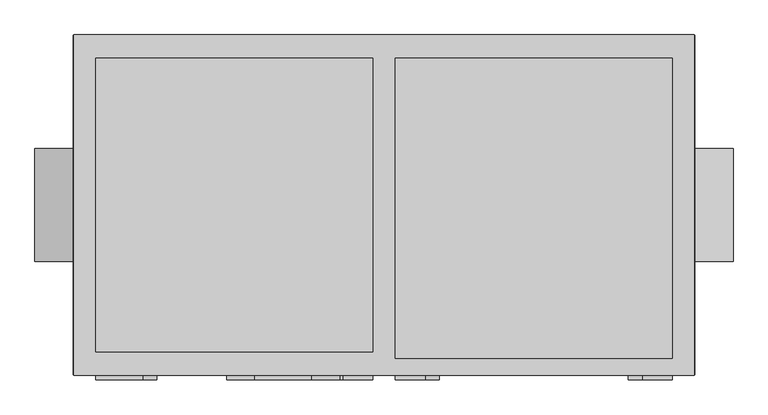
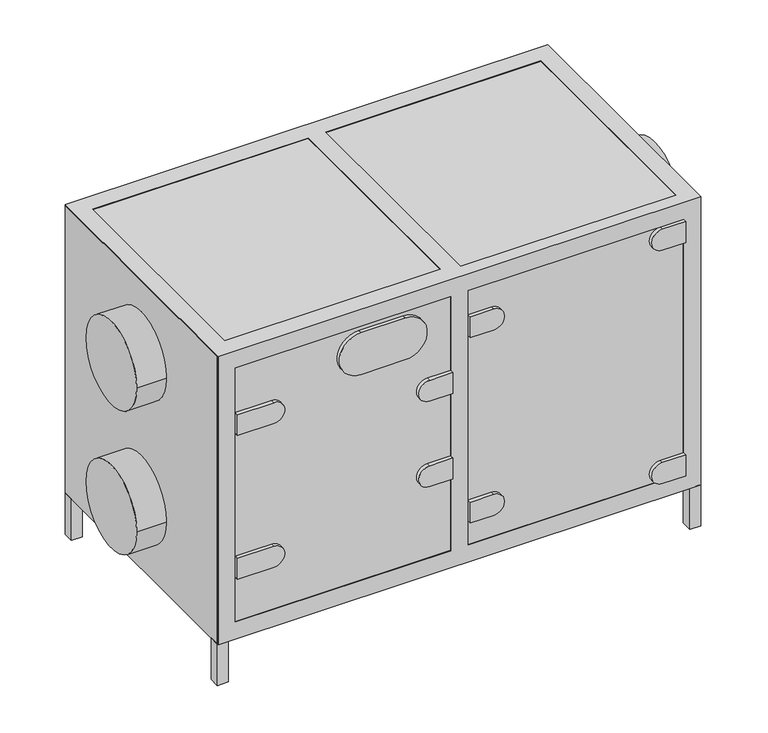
"""IFC4 building model written with IfcOpenShell, lengths in millimetres: proxy geometry, AVS 400...1600-S-RC(RG)-R : AVS 700-S-RG-R."""

import ifcopenshell
import ifcopenshell.guid

model = None  # the IFC model being written
_history = None  # IfcOwnerHistory: only IFC2X3 demands one
_inside = {}  # id of a spatial element -> (the spatial element, [elements in it])
_under = {}  # id of a project, library or spatial element -> (it, [spatial elements below it])
_declared = {}  # id of a project -> (the project, [libraries it declares])
_typed = {}  # id of a type object -> (the type object, [elements of that type])
_made_of = {}  # id of a material, layer set ... -> (it, [elements and type objects made of it])


def new_model(schema):
    """Start an empty IFC model of exactly this schema.

    Asked for "IFC4X3", IfcOpenShell would pick the latest addendum, in which some entities
    have other attributes; the version numbers below select the first issue.
    IFC2X3 requires an IfcOwnerHistory on every rooted entity: one is made here for all.
    """
    global model, _history
    if schema == "IFC4X3":
        model = ifcopenshell.file(schema_version=(4, 3, 0, 0))
    else:
        model = ifcopenshell.file(schema=schema)
    _inside.clear()
    _under.clear()
    _declared.clear()
    _typed.clear()
    _made_of.clear()
    _history = None
    if model.schema == "IFC2X3":
        org = make("IfcOrganization", Name="unknown")
        user = make(
            "IfcPersonAndOrganization",
            ThePerson=make("IfcPerson", FamilyName="unknown"),
            TheOrganization=org,
        )
        app = make(
            "IfcApplication",
            ApplicationDeveloper=org,
            Version="unknown",
            ApplicationFullName="unknown",
            ApplicationIdentifier="unknown",
        )
        _history = make(
            "IfcOwnerHistory",
            OwningUser=user,
            OwningApplication=app,
            ChangeAction="ADDED",
            CreationDate=0,
        )
    return model


def make(cls, **values):
    """One entity of the class cls with the attributes given. An attribute that is None is left unset."""
    return model.create_entity(
        cls, **{name: value for name, value in values.items() if value is not None}
    )


def rooted(cls, **values):
    """An entity with a GlobalId (a new one), such as an element, a storey or a relation."""
    return make(cls, GlobalId=ifcopenshell.guid.new(), OwnerHistory=_history, **values)


def si_unit(unit_type, name, prefix=None):
    """IfcSIUnit, for example si_unit("LENGTHUNIT", "METRE", prefix="MILLI")."""
    return make("IfcSIUnit", UnitType=unit_type, Prefix=prefix, Name=name)


def assignment(units):
    """IfcUnitAssignment: the units of a project."""
    return None if units is None else make("IfcUnitAssignment", Units=units)


def point(xyz):
    """IfcCartesianPoint."""
    return None if xyz is None else make("IfcCartesianPoint", Coordinates=xyz)


def direction(xyz):
    """IfcDirection."""
    return None if xyz is None else make("IfcDirection", DirectionRatios=xyz)


def frame(location, z_axis=None, x_axis=None):
    """IfcAxis2Placement3D, a coordinate frame: its origin and axes. An axis left out is left unset."""
    return make(
        "IfcAxis2Placement3D",
        Location=point(location),
        Axis=direction(z_axis),
        RefDirection=direction(x_axis),
    )


def frame_2d(location, x_axis=None):
    """IfcAxis2Placement2D, a coordinate frame in the plane: its origin and x axis."""
    return make(
        "IfcAxis2Placement2D", Location=point(location), RefDirection=direction(x_axis)
    )


def origin():
    """The frame at (0, 0, 0) with its axes left unset."""
    return frame((0.0, 0.0, 0.0))


def origin_with_axes():
    """The frame at (0, 0, 0) with the z axis (0, 0, 1) and the x axis (1, 0, 0) written out."""
    return frame((0.0, 0.0, 0.0), z_axis=(0.0, 0.0, 1.0), x_axis=(1.0, 0.0, 0.0))


def place(relative_to, where):
    """IfcLocalPlacement: puts the frame where relative to a parent placement (None: the world)."""
    return make(
        "IfcLocalPlacement", PlacementRelTo=relative_to, RelativePlacement=where
    )


def context(
    kind, dimensions, precision=None, world=None, true_north=None, identifier=None
):
    """IfcGeometricRepresentationContext, for example the 3D "Model" context."""
    return make(
        "IfcGeometricRepresentationContext",
        ContextIdentifier=identifier,
        ContextType=kind,
        CoordinateSpaceDimension=dimensions,
        Precision=precision,
        WorldCoordinateSystem=world,
        TrueNorth=true_north,
    )


def project(units=None, contexts=None):
    """IfcProject with its units and contexts."""
    return rooted(
        "IfcProject",
        Name="project",
        RepresentationContexts=contexts,
        UnitsInContext=assignment(units),
    )


def spatial(cls, under=None, at=None, **own):
    """A site, building, storey or space (cls), placed at a placement, below another one or the project."""
    s = rooted(cls, ObjectPlacement=at, **own)
    if under is not None:
        _under.setdefault(under.id(), (under, []))[1].append(s)
    return s


def polyline(points):
    """IfcPolyline through the points."""
    return make("IfcPolyline", Points=[point(p) for p in points])


def circle_curve(where, radius):
    """IfcCircle in the frame where."""
    return make("IfcCircle", Position=where, Radius=radius)


def trimmed(basis, trim1, trim2, sense, master):
    """IfcTrimmedCurve: the piece of a basis curve between two trims."""
    return make(
        "IfcTrimmedCurve",
        BasisCurve=basis,
        Trim1=trim1,
        Trim2=trim2,
        SenseAgreement=sense,
        MasterRepresentation=master,
    )


def segment(curve, same_sense, transition):
    """IfcCompositeCurveSegment."""
    return make(
        "IfcCompositeCurveSegment",
        Transition=transition,
        SameSense=same_sense,
        ParentCurve=curve,
    )


def composite_curve(segments, self_intersect=None):
    """IfcCompositeCurve: segments joined end to end."""
    return make("IfcCompositeCurve", Segments=segments, SelfIntersect=self_intersect)


def outline(outer, holes=None, kind="AREA"):
    """IfcArbitraryClosedProfileDef: a profile drawn as a closed curve; with holes, ...WithVoids."""
    if holes is None:
        return make("IfcArbitraryClosedProfileDef", ProfileType=kind, OuterCurve=outer)
    return make(
        "IfcArbitraryProfileDefWithVoids",
        ProfileType=kind,
        OuterCurve=outer,
        InnerCurves=holes,
    )


def extrude(swept, where, along, depth):
    """IfcExtrudedAreaSolid: the profile swept, set in the frame where, extruded along a direction by depth."""
    return make(
        "IfcExtrudedAreaSolid",
        SweptArea=swept,
        Position=where,
        ExtrudedDirection=direction(along),
        Depth=depth,
    )


def faces_of(points, faces, orient=None, outer=None):
    """IfcFace entities. A face is a list of loops; a loop is a list of indices into points, from 0.

    orient and outer hold one flag for each loop. By default every Orientation is true, the
    first loop of a face is its IfcFaceOuterBound and the others are IfcFaceBound.
    """
    made = []
    for i, loops in enumerate(faces):
        bounds = []
        for j, loop in enumerate(loops):
            is_outer = j == 0 if outer is None else outer[i][j]
            bounds.append(
                make(
                    "IfcFaceOuterBound" if is_outer else "IfcFaceBound",
                    Bound=make("IfcPolyLoop", Polygon=[points[k] for k in loop]),
                    Orientation=True if orient is None else orient[i][j],
                )
            )
        made.append(make("IfcFace", Bounds=bounds))
    return made


def faceted_brep(points, faces, orient=None, outer=None, voids=None):
    """IfcFacetedBrep: a solid bounded by flat faces; with voids (closed shells), ...WithVoids."""
    shared = [point(p) for p in points]
    hull = make("IfcClosedShell", CfsFaces=faces_of(shared, faces, orient, outer))
    if voids is None:
        return make("IfcFacetedBrep", Outer=hull)
    return make(
        "IfcFacetedBrepWithVoids",
        Outer=hull,
        Voids=[
            make(cls, CfsFaces=faces_of(shared, fs, o, b)) for cls, fs, o, b in voids
        ],
    )


def shape(context_of_items, identifier, shape_type, items):
    """IfcShapeRepresentation: the items that make up one representation, for example the "Body"."""
    return make(
        "IfcShapeRepresentation",
        ContextOfItems=context_of_items,
        RepresentationIdentifier=identifier,
        RepresentationType=shape_type,
        Items=items,
    )


def source(mapping_origin, context_of_items, identifier, shape_type, items):
    """IfcRepresentationMap: a shape defined once, which mapped items show again and again."""
    return make(
        "IfcRepresentationMap",
        MappingOrigin=mapping_origin,
        MappedRepresentation=shape(context_of_items, identifier, shape_type, items),
    )


def transform(
    local_origin,
    x_axis=None,
    y_axis=None,
    z_axis=None,
    scale=None,
    scale2=None,
    scale3=None,
    uniform=True,
):
    """IfcCartesianTransformationOperator3D, or its non-uniform kind. x_axis, y_axis, z_axis: its Axis1, 2, 3."""
    if uniform:
        return make(
            "IfcCartesianTransformationOperator3D",
            Axis1=direction(x_axis),
            Axis2=direction(y_axis),
            LocalOrigin=point(local_origin),
            Scale=scale,
            Axis3=direction(z_axis),
        )
    return make(
        "IfcCartesianTransformationOperator3DnonUniform",
        Axis1=direction(x_axis),
        Axis2=direction(y_axis),
        LocalOrigin=point(local_origin),
        Scale=scale,
        Axis3=direction(z_axis),
        Scale2=scale2,
        Scale3=scale3,
    )


def mapped(mapping_source, mapping_target):
    """IfcMappedItem: shows the shape of a source again, moved by a transform."""
    return make(
        "IfcMappedItem", MappingSource=mapping_source, MappingTarget=mapping_target
    )


def made_of(thing, what):
    """Note that an element or type object is made of a material, layer set ...; save() writes the relation."""
    if what is not None:
        _made_of.setdefault(what.id(), (what, []))[1].append(thing)
    return thing


def element(
    cls,
    number,
    at=None,
    inside=None,
    cuts=None,
    type_object=None,
    material=None,
    context=None,
    identifier="Body",
    shape_type=None,
    held_by="IfcProductDefinitionShape",
    body=None,
    shapes=None,
    **own,
):
    """One element of the class cls, such as IfcWall. Its Tag is "e" and its number.

    at: its placement. inside: the storey or other place that contains it. cuts: it is an
    opening in that element (IfcRelVoidsElement). A single representation is given by context,
    identifier, shape_type and body (its items); several are given by shapes. held_by: the class
    of the entity that holds the representations. save() writes the other relations.
    """
    e = rooted(cls, Tag="e%d" % number, ObjectPlacement=at, **own)
    if body is not None:
        shapes = [shape(context, identifier, shape_type, body)]
    if shapes is not None:
        e.Representation = make(held_by, Representations=shapes)
    if inside is not None:
        _inside.setdefault(inside.id(), (inside, []))[1].append(e)
    if cuts is not None:
        rooted(
            "IfcRelVoidsElement", RelatingBuildingElement=cuts, RelatedOpeningElement=e
        )
    if type_object is not None:
        _typed.setdefault(type_object.id(), (type_object, []))[1].append(e)
    return made_of(e, material)


def aggregate(whole, parts):
    """IfcRelAggregates: a whole, such as a stair, and the parts it consists of."""
    return rooted("IfcRelAggregates", RelatingObject=whole, RelatedObjects=parts)


def save(model, path):
    """Write the relations noted so far, then the file.

    IfcRelAggregates (storeys below a building ...), IfcRelContainedInSpatialStructure (elements
    in a storey), IfcRelDefinesByType, IfcRelAssociatesMaterial and IfcRelDeclares: one each for
    every whole, place, type object, material and project.
    """
    for whole, parts in _under.values():
        aggregate(whole, parts)
    for where, things in _inside.values():
        rooted(
            "IfcRelContainedInSpatialStructure",
            RelatedElements=things,
            RelatingStructure=where,
        )
    for kind, things in _typed.values():
        rooted("IfcRelDefinesByType", RelatedObjects=things, RelatingType=kind)
    for what, things in _made_of.values():
        rooted("IfcRelAssociatesMaterial", RelatedObjects=things, RelatingMaterial=what)
    for by, libraries in _declared.values():
        rooted("IfcRelDeclares", RelatingContext=by, RelatedDefinitions=libraries)
    model.write(path)


def mechanical_equipment_7bd0ba8a(model_context):
    return source(origin(), model_context, "Body", "SolidModel", [
        extrude(outline(polyline([(525.0, 300.5), (550.0, 300.5), (550.0, 275.5), (525.0, 275.5), (525.0, 300.5)])), origin_with_axes(), (0.0, 0.0, 1.0), 100.0),
        extrude(outline(polyline([(525.0, -300.5), (525.0, -275.5), (550.0, -275.5), (550.0, -300.5), (525.0, -300.5)])), origin_with_axes(), (0.0, 0.0, 1.0), 100.0),
        extrude(outline(polyline([(-550.0, 275.5), (-550.0, 300.5), (-525.0, 300.5), (-525.0, 275.5), (-550.0, 275.5)])), origin_with_axes(), (0.0, 0.0, 1.0), 100.0),
        extrude(outline(polyline([(-550.0, -275.5), (-525.0, -275.5), (-525.0, -300.5), (-550.0, -300.5), (-550.0, -275.5)])), origin_with_axes(), (0.0, 0.0, 1.0), 100.0),
        faceted_brep([(549.0, 301.5, 793.0), (-549.0, 301.5, 793.0), (-549.0, -301.5, 793.0), (549.0, -301.5, 793.0), (-510.0, 260.5, 793.0), (-20.0, 260.5, 793.0), (-20.0, -260.5, 793.0), (-510.0, -260.5, 793.0), (510.0, 260.5, 793.0), (510.0, -271.5, 793.0), (20.0, -271.5, 793.0), (20.0, 260.5, 793.0), (549.0, 301.5, 99.0), (549.0, -301.5, 99.0), (-549.0, -301.5, 99.0), (-549.0, 301.5, 99.0), (-20.0, 260.5, 99.0), (-510.0, 260.5, 99.0), (-510.0, -260.5, 99.0), (-20.0, -260.5, 99.0), (510.0, -271.5, 99.0), (510.0, 260.5, 99.0), (20.0, 260.5, 99.0), (20.0, -271.5, 99.0), (-20.0, 301.5, 752.0), (-510.0, 301.5, 752.0), (-510.0, 301.5, 140.0), (-20.0, 301.5, 140.0), (510.0, 301.5, 140.0), (510.0, 301.5, 752.0), (20.0, 301.5, 752.0), (20.0, 301.5, 140.0), (-549.0, -260.5, 752.0), (-549.0, -260.5, 140.0), (-549.0, 260.5, 140.0), (-549.0, 260.5, 752.0), (-510.0, -301.5, 752.0), (-20.0, -301.5, 752.0), (-20.0, -301.5, 140.0), (-510.0, -301.5, 140.0), (510.0, -301.5, 752.0), (510.0, -301.5, 140.0), (20.0, -301.5, 140.0), (20.0, -301.5, 752.0), (549.0, -260.5, 140.0), (549.0, -260.5, 752.0), (549.0, 260.5, 752.0), (549.0, 260.5, 140.0), (-510.0, 260.5, 752.0), (-20.0, 260.5, 752.0), (-20.0, 260.5, 140.0), (-510.0, 260.5, 140.0), (-20.0, -260.5, 752.0), (-510.0, -260.5, 752.0), (-510.0, -260.5, 140.0), (-20.0, -260.5, 140.0), (510.0, 260.5, 752.0), (510.0, -260.5, 752.0), (510.0, -260.5, 140.0), (510.0, 260.5, 140.0), (510.0, -271.5, 140.0), (510.0, -271.5, 752.0), (20.0, 260.5, 752.0), (20.0, -260.5, 752.0), (20.0, -260.5, 140.0), (20.0, 260.5, 140.0), (20.0, -271.5, 752.0), (20.0, -271.5, 140.0)], [[[0, 1, 2, 3], [4, 5, 6, 7], [8, 9, 10, 11]], [[12, 13, 14, 15], [16, 17, 18, 19], [20, 21, 22, 23]], [[1, 0, 12, 15], [24, 25, 26, 27], [28, 29, 30, 31]], [[2, 1, 15, 14], [32, 33, 34, 35]], [[3, 2, 14, 13], [36, 37, 38, 39], [40, 41, 42, 43]], [[0, 3, 13, 12], [44, 45, 46, 47]], [[5, 4, 48, 49]], [[17, 16, 50, 51]], [[7, 6, 52, 53]], [[19, 18, 54, 55]], [[9, 8, 56, 57, 58, 59, 21, 20, 60, 41, 40, 61]], [[56, 29, 28, 59]], [[35, 48, 53, 32]], [[56, 46, 45, 57]], [[49, 62, 63, 52]], [[51, 34, 33, 54]], [[47, 59, 58, 44]], [[55, 64, 65, 50]], [[36, 53, 52, 37]], [[24, 49, 48, 25]], [[54, 39, 38, 55]], [[50, 27, 26, 51]], [[32, 53, 54, 33]], [[57, 45, 44, 58]], [[52, 63, 64, 55]], [[48, 35, 34, 51]], [[62, 49, 50, 65]], [[59, 47, 46, 56]], [[4, 7, 53, 48]], [[18, 17, 51, 54]], [[53, 36, 39, 54]], [[25, 48, 51, 26]], [[6, 5, 49, 52]], [[16, 19, 55, 50]], [[37, 52, 55, 38]], [[49, 24, 27, 50]], [[8, 11, 62, 56]], [[22, 21, 59, 65]], [[11, 10, 66, 43, 42, 67, 23, 22, 65, 64, 63, 62]], [[30, 62, 65, 31]], [[10, 9, 61, 66]], [[20, 23, 67, 60]], [[61, 40, 43, 66]], [[29, 56, 62, 30]], [[41, 60, 67, 42]], [[59, 28, 31, 65]]]),
        extrude(outline(polyline([(-550.0, 300.5), (550.0, 300.5), (550.0, -300.5), (-550.0, -300.5), (-550.0, 300.5)])), frame((0.0, 0.0, 100.0), z_axis=(0.0, 0.0, 1.0), x_axis=(1.0, 0.0, 0.0)), (0.0, 0.0, 1.0), 692.0),
        extrude(outline(composite_curve([segment(polyline([(644.0, -427.2895396), (644.0, -510.0), (594.0, -510.0), (594.0, -427.2895396)]), True, "CONTINUOUS"), segment(trimmed(circle_curve(frame_2d((619.0, -427.2895396)), 25.0), [point((594.0, -427.2895396))], [point((644.0, -427.2895396))], False, "CARTESIAN"), True, "CONTINUOUS")], self_intersect=False)), frame((0.0, -310.0, 0.0), z_axis=(0.0, 1.0, 0.0), x_axis=(0.0, 0.0, 1.0)), (0.0, 0.0, 1.0), 9.5),
        extrude(outline(composite_curve([segment(polyline([(298.0, -427.2895396), (298.0, -510.0), (248.0, -510.0), (248.0, -427.2895396)]), True, "CONTINUOUS"), segment(trimmed(circle_curve(frame_2d((273.0, -427.2895396)), 25.0), [point((248.0, -427.2895396))], [point((298.0, -427.2895396))], False, "CARTESIAN"), True, "CONTINUOUS")], self_intersect=False)), frame((0.0, -310.0, 0.0), z_axis=(0.0, 1.0, 0.0), x_axis=(0.0, 0.0, 1.0)), (0.0, 0.0, 1.0), 9.5),
        extrude(outline(composite_curve([segment(trimmed(circle_curve(frame_2d((549.0, -72.7104604)), 25.0), [point((574.0, -72.7104604))], [point((524.0, -72.7104604))], False, "CARTESIAN"), True, "CONTINUOUS"), segment(polyline([(524.0, -72.7104604), (524.0, -20.0), (574.0, -20.0), (574.0, -72.7104604)]), True, "CONTINUOUS")], self_intersect=False)), frame((0.0, -310.0, 0.0), z_axis=(0.0, 1.0, 0.0), x_axis=(0.0, 0.0, 1.0)), (0.0, 0.0, 1.0), 9.5),
        extrude(outline(composite_curve([segment(polyline([(318.0, -72.7104604), (318.0, -20.0), (368.0, -20.0), (368.0, -72.7104604)]), True, "CONTINUOUS"), segment(trimmed(circle_curve(frame_2d((343.0, -72.7104604)), 25.0), [point((368.0, -72.7104604))], [point((318.0, -72.7104604))], False, "CARTESIAN"), True, "CONTINUOUS")], self_intersect=False)), frame((0.0, -310.0, 0.0), z_axis=(0.0, 1.0, 0.0), x_axis=(0.0, 0.0, 1.0)), (0.0, 0.0, 1.0), 9.5),
        extrude(outline(composite_curve([segment(trimmed(circle_curve(frame_2d((727.0, 457.2895396)), 25.0), [point((752.0, 457.2895396))], [point((702.0, 457.2895396))], False, "CARTESIAN"), True, "CONTINUOUS"), segment(polyline([(702.0, 457.2895396), (702.0, 510.0), (752.0, 510.0), (752.0, 457.2895396)]), True, "CONTINUOUS")], self_intersect=False)), frame((0.0, -310.0, 0.0), z_axis=(0.0, 1.0, 0.0), x_axis=(0.0, 0.0, 1.0)), (0.0, 0.0, 1.0), 9.5),
        extrude(outline(composite_curve([segment(polyline([(140.0, 457.2895396), (140.0, 510.0), (190.0, 510.0), (190.0, 457.2895396)]), True, "CONTINUOUS"), segment(trimmed(circle_curve(frame_2d((165.0, 457.2895396)), 25.0), [point((190.0, 457.2895396))], [point((140.0, 457.2895396))], False, "CARTESIAN"), True, "CONTINUOUS")], self_intersect=False)), frame((0.0, -310.0, 0.0), z_axis=(0.0, 1.0, 0.0), x_axis=(0.0, 0.0, 1.0)), (0.0, 0.0, 1.0), 9.5),
        extrude(outline(composite_curve([segment(polyline([(694.0, 72.7104604), (694.0, 20.0), (644.0, 20.0), (644.0, 72.7104604)]), True, "CONTINUOUS"), segment(trimmed(circle_curve(frame_2d((669.0, 72.7104604)), 25.0), [point((644.0, 72.7104604))], [point((694.0, 72.7104604))], False, "CARTESIAN"), True, "CONTINUOUS")], self_intersect=False)), frame((0.0, -310.0, 0.0), z_axis=(0.0, 1.0, 0.0), x_axis=(0.0, 0.0, 1.0)), (0.0, 0.0, 1.0), 9.5),
        extrude(outline(composite_curve([segment(trimmed(circle_curve(frame_2d((223.0, 72.7104604)), 25.0), [point((198.0, 72.7104604))], [point((248.0, 72.7104604))], False, "CARTESIAN"), True, "CONTINUOUS"), segment(polyline([(248.0, 72.7104604), (248.0, 20.0), (198.0, 20.0), (198.0, 72.7104604)]), True, "CONTINUOUS")], self_intersect=False)), frame((0.0, -310.0, 0.0), z_axis=(0.0, 1.0, 0.0), x_axis=(0.0, 0.0, 1.0)), (0.0, 0.0, 1.0), 9.5),
        extrude(outline(composite_curve([segment(polyline([(742.9531077, -128.4249776), (742.9531077, -228.4249776)]), True, "CONTINUOUS"), segment(trimmed(circle_curve(frame_2d((692.9531077, -228.4249776)), 50.0), [point((742.9531077, -228.4249776))], [point((642.9531077, -228.4249776))], False, "CARTESIAN"), True, "CONTINUOUS"), segment(polyline([(642.9531077, -228.4249776), (642.9531077, -128.4249776)]), True, "CONTINUOUS"), segment(trimmed(circle_curve(frame_2d((692.9531077, -128.4249776)), 50.0), [point((642.9531077, -128.4249776))], [point((742.9531077, -128.4249776))], False, "CARTESIAN"), True, "CONTINUOUS")], self_intersect=False)), frame((0.0, -310.0, 0.0), z_axis=(0.0, 1.0, 0.0), x_axis=(0.0, 0.0, 1.0)), (0.0, 0.0, 1.0), 9.5),
        extrude(outline(composite_curve([segment(trimmed(circle_curve(frame_2d((0.0, 619.0)), 100.0), [point((-100.0, 619.0))], [point((100.0, 619.0))], False, "CARTESIAN"), True, "CONTINUOUS"), segment(trimmed(circle_curve(frame_2d((0.0, 619.0)), 100.0), [point((100.0, 619.0))], [point((-100.0, 619.0))], False, "CARTESIAN"), True, "CONTINUOUS")], self_intersect=False)), frame((-618.0, 0.0, 0.0), z_axis=(1.0, 0.0, 0.0), x_axis=(0.0, 1.0, 0.0)), (0.0, 0.0, 1.0), 68.0),
        extrude(outline(composite_curve([segment(trimmed(circle_curve(frame_2d((0.0, 273.0)), 100.0), [point((-100.0, 273.0))], [point((100.0, 273.0))], False, "CARTESIAN"), True, "CONTINUOUS"), segment(trimmed(circle_curve(frame_2d((0.0, 273.0)), 100.0), [point((100.0, 273.0))], [point((-100.0, 273.0))], False, "CARTESIAN"), True, "CONTINUOUS")], self_intersect=False)), frame((-618.0, 0.0, 0.0), z_axis=(1.0, 0.0, 0.0), x_axis=(0.0, 1.0, 0.0)), (0.0, 0.0, 1.0), 68.0),
        extrude(outline(composite_curve([segment(trimmed(circle_curve(frame_2d((0.0, 619.0)), 100.0), [point((-100.0, 619.0))], [point((100.0, 619.0))], False, "CARTESIAN"), True, "CONTINUOUS"), segment(trimmed(circle_curve(frame_2d((0.0, 619.0)), 100.0), [point((100.0, 619.0))], [point((-100.0, 619.0))], False, "CARTESIAN"), True, "CONTINUOUS")], self_intersect=False)), frame((550.0, 0.0, 0.0), z_axis=(1.0, 0.0, 0.0), x_axis=(0.0, 1.0, 0.0)), (0.0, 0.0, 1.0), 68.0),
        extrude(outline(composite_curve([segment(trimmed(circle_curve(frame_2d((0.0, 273.0)), 100.0), [point((-100.0, 273.0))], [point((100.0, 273.0))], False, "CARTESIAN"), True, "CONTINUOUS"), segment(trimmed(circle_curve(frame_2d((0.0, 273.0)), 100.0), [point((100.0, 273.0))], [point((-100.0, 273.0))], False, "CARTESIAN"), True, "CONTINUOUS")], self_intersect=False)), frame((550.0, 0.0, 0.0), z_axis=(1.0, 0.0, 0.0), x_axis=(0.0, 1.0, 0.0)), (0.0, 0.0, 1.0), 68.0),
    ])


if __name__ == "__main__":
    model = new_model("IFC4")
    model_context = context("Model", 3, world=origin())
    ifc_project = project(units=[si_unit("LENGTHUNIT", "METRE", prefix="MILLI")], contexts=[model_context])
    site = spatial("IfcSite", under=ifc_project)
    building = spatial("IfcBuilding", under=site)
    placement = place(None, origin())
    mechanical_equipment_shape = mechanical_equipment_7bd0ba8a(model_context)
    element("IfcBuildingElementProxy", 1, Name="AVS 400...1600-S-RC(RG)-R : AVS 700-S-RG-R", ObjectType="AVS 400...1600-S-RC(RG)-R : AVS 700-S-RG-R", at=placement, inside=building, context=model_context, shape_type="MappedRepresentation", body=[
        mapped(mechanical_equipment_shape, transform((0.0, 0.0, 0.0), x_axis=(1.0, 0.0, 0.0), y_axis=(0.0, 1.0, 0.0), z_axis=(0.0, 0.0, 1.0))),
    ])
    save(model, "model.ifc")
